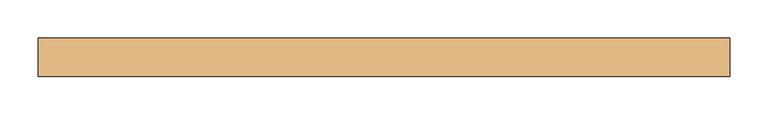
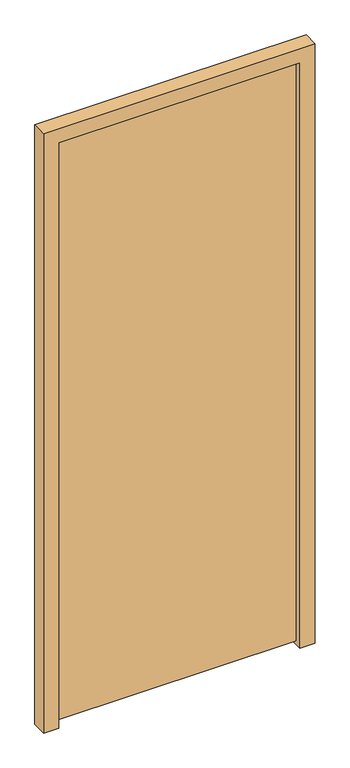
"""IFC4 building model written with IfcOpenShell, lengths in millimetres: door geometry, Dr_Дверь_v2.1 : ДВДГ 21-9_выполняется собственником."""

from ifc_helpers import new_model, si_unit, frame, origin, place, context, project, spatial, polyline, outline, extrude, source, transform, mapped, element, save


def door_6199b08a(model_context):
    return source(origin(), model_context, "Body", "SweptSolid", [
        extrude(outline(polyline([(0.0, -325.0), (0.0, -275.0), (2050.0, -275.0), (2050.0, 525.0), (0.0, 525.0), (0.0, 575.0), (2100.0, 575.0), (2100.0, -325.0), (0.0, -325.0)])), frame((0.0, 12.5, 0.0), z_axis=(0.0, 1.0, 0.0), x_axis=(0.0, 0.0, 1.0)), (0.0, 0.0, 1.0), 50.0),
        extrude(outline(polyline([(525.0, 32.5), (-275.0, 32.5), (-275.0, 62.5), (525.0, 62.5), (525.0, 32.5)])), frame((0.0, 0.0, 14.0), z_axis=(0.0, 0.0, 1.0), x_axis=(1.0, 0.0, 0.0)), (0.0, 0.0, 1.0), 2036.0),
    ])


if __name__ == "__main__":
    model = new_model("IFC4")
    model_context = context("Model", 3, world=origin())
    ifc_project = project(units=[si_unit("LENGTHUNIT", "METRE", prefix="MILLI")], contexts=[model_context])
    site = spatial("IfcSite", under=ifc_project)
    building = spatial("IfcBuilding", under=site)
    placement = place(None, origin())
    door_shape = door_6199b08a(model_context)
    element("IfcDoor", 1, ObjectType="Dr_Дверь_v2.1 : ДВДГ 21-9_выполняется собственником", at=placement, inside=building, context=model_context, shape_type="MappedRepresentation", body=[
        mapped(door_shape, transform((0.0, 0.0, 0.0), x_axis=(1.0, 0.0, 0.0), y_axis=(0.0, 1.0, 0.0), z_axis=(0.0, 0.0, 1.0))),
    ])
    save(model, "model.ifc")
